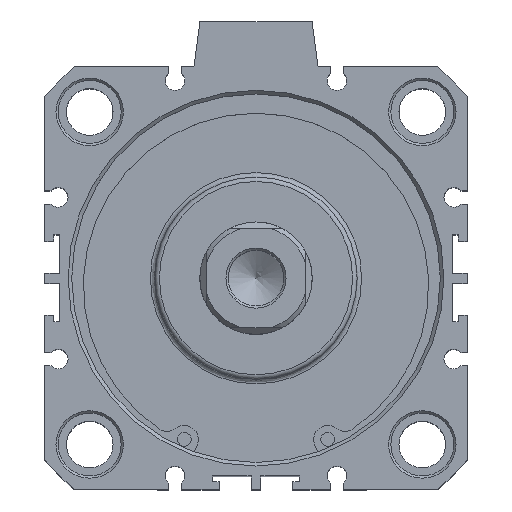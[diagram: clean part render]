
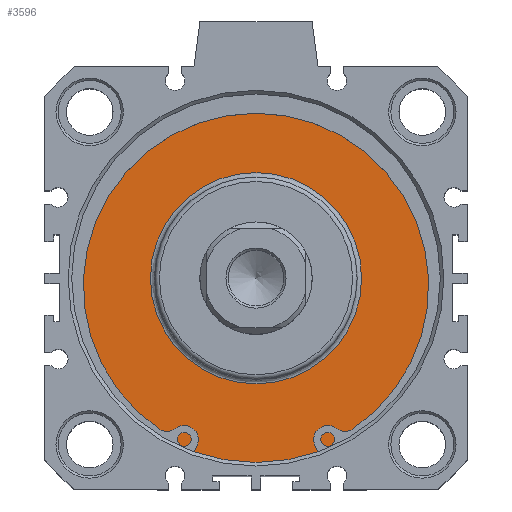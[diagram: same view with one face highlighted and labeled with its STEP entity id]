
A CAD part, top view. The second image highlights one B-rep face of the part: STEP entity #3596.
In plain terms, the highlighted planar face has unit normal (0, 0, 1).
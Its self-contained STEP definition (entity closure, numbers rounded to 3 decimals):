
#3545=CARTESIAN_POINT('',(2.033,24.337,65.6));
#3546=VERTEX_POINT('',#3545);
#3547=CARTESIAN_POINT('',(2.033,0.837,65.6));
#3548=DIRECTION('',(0.0,0.0,1.0));
#3549=DIRECTION('',(0.0,-1.0,0.0));
#3550=AXIS2_PLACEMENT_3D('',#3547,#3548,#3549);
#3551=CIRCLE('',#3550,23.5);
#3552=EDGE_CURVE('',#3546,#3546,#3551,.T.);
#3577=CARTESIAN_POINT('',(2.033,32.587,65.6));
#3578=DIRECTION('',(0.0,0.0,1.0));
#3579=DIRECTION('',(1.0,0.0,0.0));
#3580=AXIS2_PLACEMENT_3D('',#3577,#3578,#3579);
#3581=PLANE('',#3580);
#3582=CARTESIAN_POINT('',(2.033,41.837,65.6));
#3583=VERTEX_POINT('',#3582);
#3584=CARTESIAN_POINT('',(2.033,0.837,65.6));
#3585=DIRECTION('',(0.0,0.0,-1.0));
#3586=DIRECTION('',(0.0,1.0,0.0));
#3587=AXIS2_PLACEMENT_3D('',#3584,#3585,#3586);
#3588=CIRCLE('',#3587,41.);
#3589=EDGE_CURVE('',#3583,#3583,#3588,.T.);
#3590=ORIENTED_EDGE('',*,*,#3589,.F.);
#3591=EDGE_LOOP('',(#3590));
#3592=FACE_OUTER_BOUND('',#3591,.T.);
#3593=ORIENTED_EDGE('',*,*,#3552,.F.);
#3594=EDGE_LOOP('',(#3593));
#3595=FACE_BOUND('',#3594,.T.);
#3596=ADVANCED_FACE('',(#3592,#3595),#3581,.T.);
